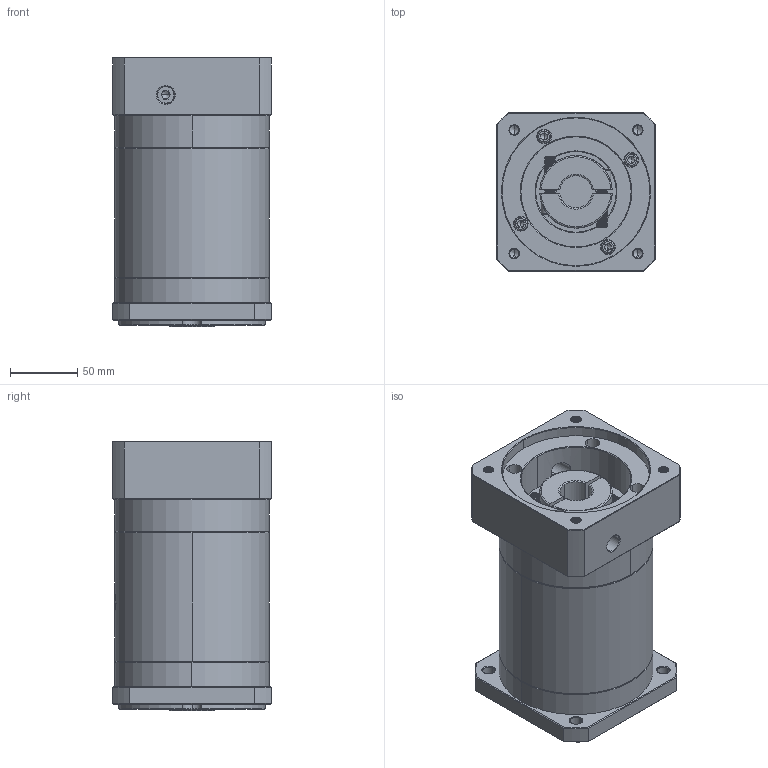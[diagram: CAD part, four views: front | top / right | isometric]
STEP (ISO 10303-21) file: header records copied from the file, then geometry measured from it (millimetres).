
FILE_DESCRIPTION (( 'STEP AP214' ), '1' );
FILE_NAME ('ZF120A-K25-L3-P2-24-110-130-M8.step', '2023-08-27T04:53:36', ( '' ), ( '' ), 'SwSTEP 2.0', 'SolidWorks 2016', '' );
FILE_SCHEMA (( 'AUTOMOTIVE_DESIGN' ));
Length unit declared in the file: millimetre
Products named in the file (1): ZF120A-K25-L3-P2-24-110-130-M8
Bounding box: 118 x 118 x 200.5 mm (x, y, z)
Volume: 1987290.1 mm3; surface area: 184727.2 mm2
Topology: 6 solids, 6 shells, 2163 faces, 5742 edges, 3684 vertices
Faces by surface type: plane 1027, bspline 410, cylinder 389, cone 317, torus 20
Entity records: 117316 total; most frequent: CARTESIAN_POINT 44980, ORIENTED_EDGE 11428, DIRECTION 8299, EDGE_CURVE 5714, VERTEX_POINT 3684, VECTOR 3039, LINE 3039, AXIS2_PLACEMENT_3D 2630
